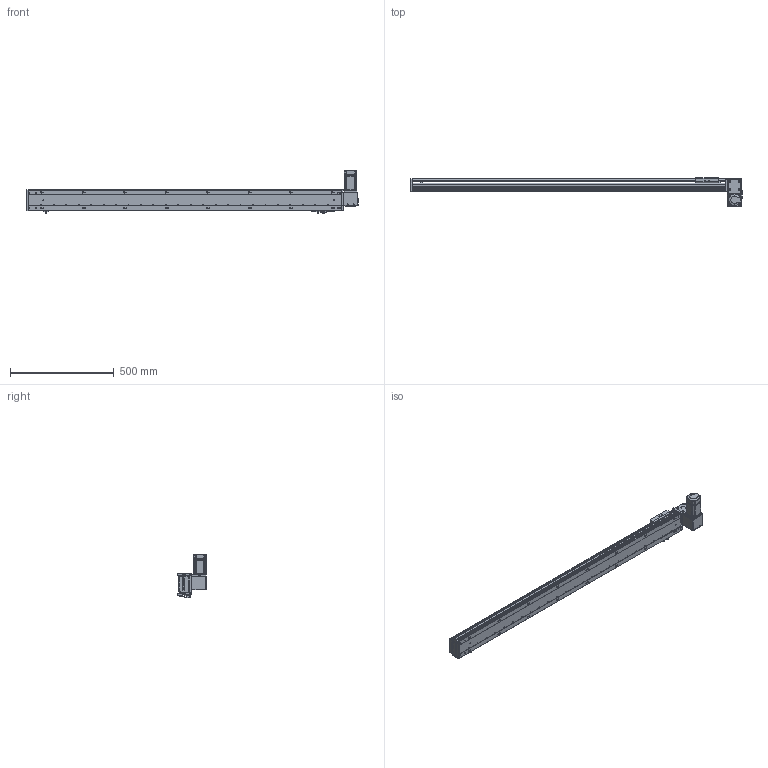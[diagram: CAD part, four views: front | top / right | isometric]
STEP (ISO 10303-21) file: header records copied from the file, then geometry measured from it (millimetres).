
FILE_DESCRIPTION (( 'STEP AP203' ), '1' );
FILE_NAME ('RY100-T-300-DR.SLDASM_1300.step', '2024-04-25T03:23:22', ( '盈信电脑' ), ( '东莞市道滘镇水果街19号' ), 'SwSTEP 2.0', 'SolidWorks 2016', '' );
FILE_SCHEMA (( 'CONFIG_CONTROL_DESIGN' ));
Length unit declared in the file: millimetre
Products named in the file (16): 1; RY100-T-300-RK倰第菁釱_1300; 覜茼ん672; RY100俋离覜茼え; 滅袉蝶18-10; RY100-T左右折电机安装板; RY100-T-300-DR.SLDASM_1300; 侂狟200W萇儂; RY100-T翋肮祭謫裔啣2; RY100-T肮祭謫臏賑輸; RY100-T粣創揤踡裔; RY80-T肮祭謫狟殏俋欶; RY100-T肮祭謫翋盓傅釱; RY100-T翋肮祭謫裔啣; RY100-T-300-RK倰第奻裔_1300; RY100綴裔啣
Assembly tree (19 placements, depth 3):
  RY100-T-300-DR.SLDASM_1300
    RY100-T-300-RK倰第菁釱_1300
    RY100-T-300-RK倰第奻裔_1300
    RY100-T肮祭謫臏賑輸
    RY100綴裔啣
    覜茼ん672  x3
    RY100俋离覜茼え
    RY100-T肮祭謫翋盓傅釱
    RY100-T左右折电机安装板
    侂狟200W萇儂
      1
    RY100-T粣創揤踡裔
    滅袉蝶18-10  x2
    RY100-T翋肮祭謫裔啣2  x2
    RY100-T翋肮祭謫裔啣
    RY80-T肮祭謫狟殏俋欶
Bounding box: 1600 x 135.5 x 209.7 mm (x, y, z)
Volume: 3121671.4 mm3; surface area: 1306336.8 mm2
Topology: 18 solids, 18 shells, 2251 faces, 6264 edges, 4070 vertices
Faces by surface type: plane 1217, cylinder 823, cone 133, bspline 78
Entity records: 72235 total; most frequent: CARTESIAN_POINT 17390, ORIENTED_EDGE 11264, DIRECTION 10740, EDGE_CURVE 5632, VERTEX_POINT 3706, LINE 3626, VECTOR 3626, AXIS2_PLACEMENT_3D 3557
